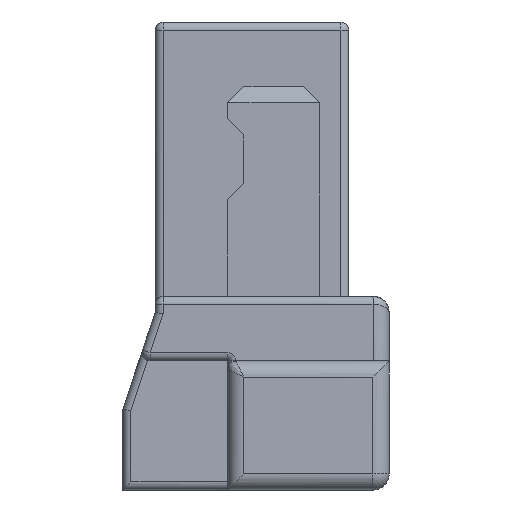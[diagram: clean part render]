
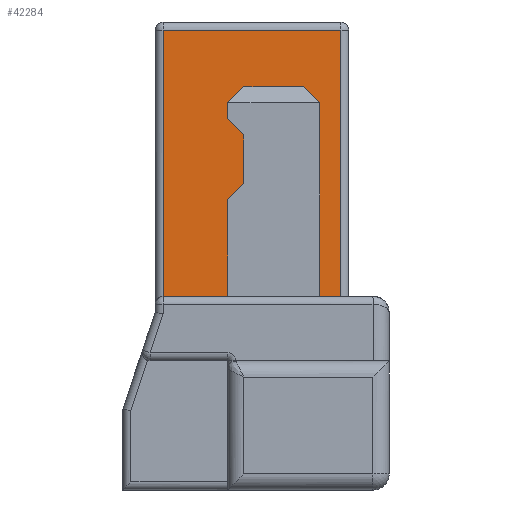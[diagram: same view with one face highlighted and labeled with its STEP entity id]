
A CAD part, left-side view. The second image highlights one B-rep face of the part: STEP entity #42284.
In plain terms, the highlighted planar face has unit normal (-1, 0, 0).
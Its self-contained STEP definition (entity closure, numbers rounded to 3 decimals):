
#8616=DIRECTION('',(0.,1.,0.));
#8617=VECTOR('',#8616,0.13);
#8618=CARTESIAN_POINT('',(-4.09,0.3,1.2));
#8619=LINE('',#8618,#8617);
#8620=DIRECTION('',(0.,0.707,0.707));
#8621=VECTOR('',#8620,0.141);
#8622=CARTESIAN_POINT('',(-4.09,0.43,2.4));
#8623=LINE('',#8622,#8621);
#8624=DIRECTION('',(0.,0.707,-0.707));
#8625=VECTOR('',#8624,0.141);
#8626=CARTESIAN_POINT('',(-4.09,0.9,2.5));
#8627=LINE('',#8626,#8625);
#8628=DIRECTION('',(0.,-0.707,-0.707));
#8629=VECTOR('',#8628,0.141);
#8630=CARTESIAN_POINT('',(-4.09,1.,2.3));
#8631=LINE('',#8630,#8629);
#8632=DIRECTION('',(0.,0.707,-0.707));
#8633=VECTOR('',#8632,0.141);
#8634=CARTESIAN_POINT('',(-4.09,0.9,1.9));
#8635=LINE('',#8634,#8633);
#8636=DIRECTION('',(0.,1.,0.));
#8637=VECTOR('',#8636,0.4);
#8638=CARTESIAN_POINT('',(-4.09,1.,1.2));
#8639=LINE('',#8638,#8637);
#8640=DIRECTION('',(0.,-1.,0.));
#8641=VECTOR('',#8640,1.1);
#8642=CARTESIAN_POINT('',(-4.09,1.4,2.85));
#8643=LINE('',#8642,#8641);
#8644=DIRECTION('',(0.,0.,1.));
#8645=VECTOR('',#8644,1.65);
#8646=CARTESIAN_POINT('',(-4.09,0.3,1.2));
#8647=LINE('',#8646,#8645);
#8652=DIRECTION('',(0.,0.,-1.));
#8653=VECTOR('',#8652,1.2);
#8654=CARTESIAN_POINT('',(-4.09,0.43,2.4));
#8655=LINE('',#8654,#8653);
#8696=DIRECTION('',(0.,0.,1.));
#8697=VECTOR('',#8696,0.6);
#8698=CARTESIAN_POINT('',(-4.09,1.,1.2));
#8699=LINE('',#8698,#8697);
#8712=DIRECTION('',(0.,0.,1.));
#8713=VECTOR('',#8712,0.3);
#8714=CARTESIAN_POINT('',(-4.09,0.9,1.9));
#8715=LINE('',#8714,#8713);
#8728=DIRECTION('',(0.,0.,1.));
#8729=VECTOR('',#8728,0.1);
#8730=CARTESIAN_POINT('',(-4.09,1.,2.3));
#8731=LINE('',#8730,#8729);
#8744=DIRECTION('',(0.,-1.,0.));
#8745=VECTOR('',#8744,0.37);
#8746=CARTESIAN_POINT('',(-4.09,0.9,2.5));
#8747=LINE('',#8746,#8745);
#8760=DIRECTION('',(0.,0.,-1.));
#8761=VECTOR('',#8760,1.65);
#8762=CARTESIAN_POINT('',(-4.09,1.4,2.85));
#8763=LINE('',#8762,#8761);
#23602=CARTESIAN_POINT('',(-4.09,1.4,1.2));
#23603=VERTEX_POINT('',#23602);
#23604=CARTESIAN_POINT('',(-4.09,0.43,1.2));
#23606=VERTEX_POINT('',#23604);
#26543=CARTESIAN_POINT('',(-4.09,0.3,1.2));
#26544=CARTESIAN_POINT('',(-4.09,0.3,2.85));
#26545=VERTEX_POINT('',#26543);
#26546=VERTEX_POINT('',#26544);
#26547=CARTESIAN_POINT('',(-4.09,0.43,2.4));
#26548=VERTEX_POINT('',#26547);
#26549=CARTESIAN_POINT('',(-4.09,0.9,2.5));
#26550=CARTESIAN_POINT('',(-4.09,0.53,2.5));
#26551=VERTEX_POINT('',#26549);
#26552=VERTEX_POINT('',#26550);
#26553=CARTESIAN_POINT('',(-4.09,1.,2.3));
#26554=CARTESIAN_POINT('',(-4.09,1.,2.4));
#26555=VERTEX_POINT('',#26553);
#26556=VERTEX_POINT('',#26554);
#26557=CARTESIAN_POINT('',(-4.09,0.9,2.2));
#26558=VERTEX_POINT('',#26557);
#26559=CARTESIAN_POINT('',(-4.09,0.9,1.9));
#26560=VERTEX_POINT('',#26559);
#26561=CARTESIAN_POINT('',(-4.09,1.,1.8));
#26562=VERTEX_POINT('',#26561);
#26563=CARTESIAN_POINT('',(-4.09,1.,1.2));
#26564=VERTEX_POINT('',#26563);
#26565=CARTESIAN_POINT('',(-4.09,1.4,2.85));
#26566=VERTEX_POINT('',#26565);
#42252=CARTESIAN_POINT('',(-4.09,0.85,2.025));
#42253=DIRECTION('',(1.,0.,0.));
#42254=DIRECTION('',(0.,0.,1.));
#42255=AXIS2_PLACEMENT_3D('',#42252,#42253,#42254);
#42256=PLANE('',#42255);
#42258=ORIENTED_EDGE('',*,*,#42257,.F.);
#42259=ORIENTED_EDGE('',*,*,#30757,.T.);
#42261=ORIENTED_EDGE('',*,*,#42260,.F.);
#42263=ORIENTED_EDGE('',*,*,#42262,.T.);
#42265=ORIENTED_EDGE('',*,*,#42264,.F.);
#42267=ORIENTED_EDGE('',*,*,#42266,.T.);
#42269=ORIENTED_EDGE('',*,*,#42268,.F.);
#42271=ORIENTED_EDGE('',*,*,#42270,.T.);
#42273=ORIENTED_EDGE('',*,*,#42272,.F.);
#42275=ORIENTED_EDGE('',*,*,#42274,.T.);
#42277=ORIENTED_EDGE('',*,*,#42276,.F.);
#42278=ORIENTED_EDGE('',*,*,#30749,.T.);
#42280=ORIENTED_EDGE('',*,*,#42279,.F.);
#42281=ORIENTED_EDGE('',*,*,#42242,.T.);
#42282=EDGE_LOOP('',(#42258,#42259,#42261,#42263,#42265,#42267,#42269,#42271,
#42273,#42275,#42277,#42278,#42280,#42281));
#42283=FACE_OUTER_BOUND('',#42282,.F.);
#42284=ADVANCED_FACE('',(#42283),#42256,.F.);
#30749=EDGE_CURVE('',#26564,#23603,#8639,.T.);
#30757=EDGE_CURVE('',#26545,#23606,#8619,.T.);
#42242=EDGE_CURVE('',#26566,#26546,#8643,.T.);
#42257=EDGE_CURVE('',#26545,#26546,#8647,.T.);
#42260=EDGE_CURVE('',#26548,#23606,#8655,.T.);
#42262=EDGE_CURVE('',#26548,#26552,#8623,.T.);
#42264=EDGE_CURVE('',#26551,#26552,#8747,.T.);
#42266=EDGE_CURVE('',#26551,#26556,#8627,.T.);
#42268=EDGE_CURVE('',#26555,#26556,#8731,.T.);
#42270=EDGE_CURVE('',#26555,#26558,#8631,.T.);
#42272=EDGE_CURVE('',#26560,#26558,#8715,.T.);
#42274=EDGE_CURVE('',#26560,#26562,#8635,.T.);
#42276=EDGE_CURVE('',#26564,#26562,#8699,.T.);
#42279=EDGE_CURVE('',#26566,#23603,#8763,.T.);
